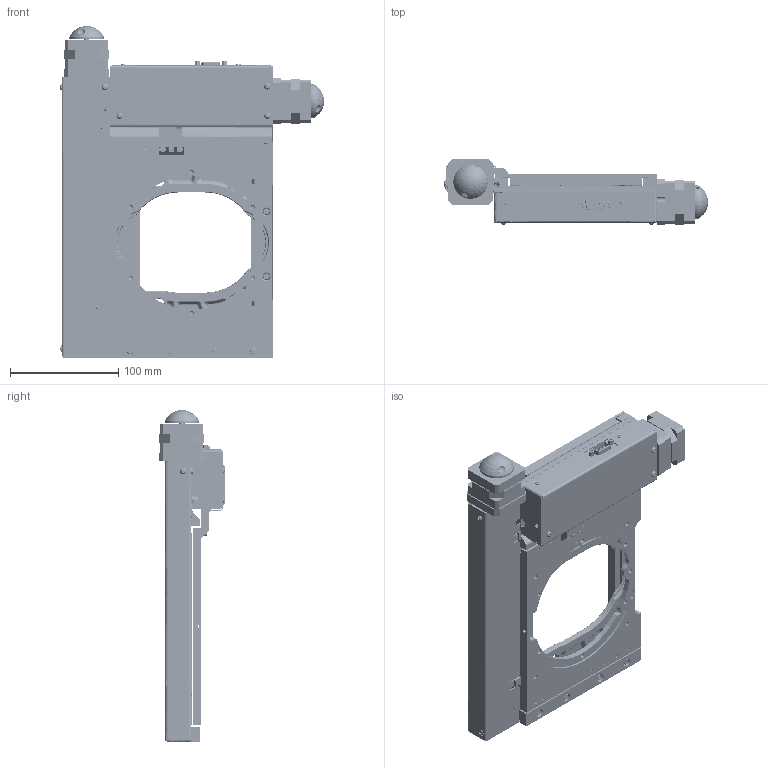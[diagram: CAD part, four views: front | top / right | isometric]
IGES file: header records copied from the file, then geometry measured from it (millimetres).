
Start section: SolidWorks IGES file using analytic representation for surfaces
Global section: file name: C:\1-DATA-FILES-FOR-PROJECTS\2022-PRODUCT-REFERENCE-MODELS\1-STAGE-REFERENCE-MODELS\ES111-STAGE-REFERENCE-MODELS\2-ES111-STAGE-AS-REFERENCE-PARTS\ES111-REF-IGES.IGS; native system: SolidWorks 2019; preprocessor: SolidWorks 2019; author: jwilliams; date: 220203.084325; units: inch
Bounding box: 244.05 x 60.74 x 306.6 mm (x, y, z)
Surface area: 376829.4 mm2 (no closed solid volume)
Topology: 0 solids, 0 shells, 4316 faces, 44432 edges, 43957 vertices
Faces by surface type: bspline 2293, revolution 2023
